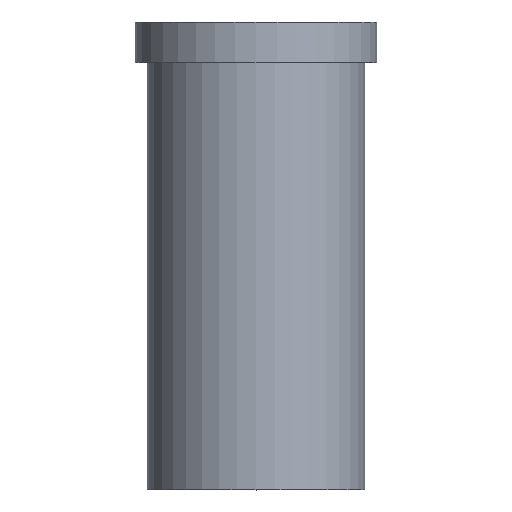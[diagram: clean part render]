
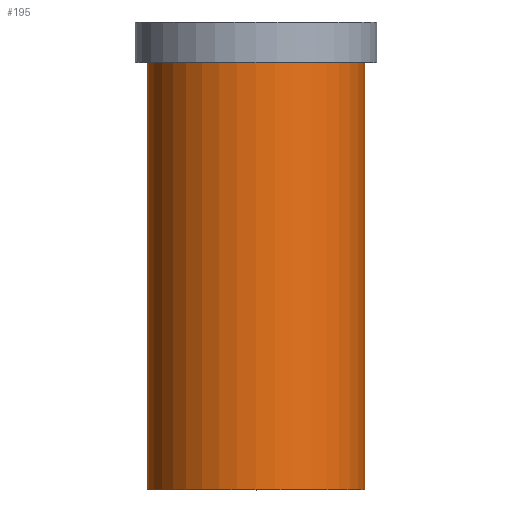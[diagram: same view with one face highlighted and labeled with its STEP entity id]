
A CAD part, top view. The second image highlights one B-rep face of the part: STEP entity #195.
In plain terms, the highlighted cylindrical face has radius 27 mm (diameter 54 mm), a full revolution.
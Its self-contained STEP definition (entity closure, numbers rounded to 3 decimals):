
#32=ORIENTED_EDGE('',*,*,#50,.T.);
#33=ORIENTED_EDGE('',*,*,#49,.F.);
#49=EDGE_CURVE('',#59,#59,#69,.T.);
#50=EDGE_CURVE('',#60,#60,#70,.T.);
#59=VERTEX_POINT('',#280);
#60=VERTEX_POINT('',#283);
#69=CIRCLE('',#213,27.);
#70=CIRCLE('',#215,27.);
#82=EDGE_LOOP('',(#32));
#83=EDGE_LOOP('',(#33));
#102=FACE_BOUND('',#82,.T.);
#103=FACE_BOUND('',#83,.T.);
#117=CYLINDRICAL_SURFACE('',#214,27.);
#195=ADVANCED_FACE('',(#102,#103),#117,.T.);
#213=AXIS2_PLACEMENT_3D('',#279,#241,#242);
#214=AXIS2_PLACEMENT_3D('',#281,#243,#244);
#215=AXIS2_PLACEMENT_3D('',#282,#245,#246);
#241=DIRECTION('',(0.,-1.,0.));
#242=DIRECTION('',(0.,0.,-1.));
#243=DIRECTION('',(0.,-1.,0.));
#244=DIRECTION('',(0.,0.,-1.));
#245=DIRECTION('',(0.,-1.,0.));
#246=DIRECTION('',(0.,0.,-1.));
#279=CARTESIAN_POINT('',(0.,0.,0.));
#280=CARTESIAN_POINT('',(0.,0.,-27.));
#281=CARTESIAN_POINT('',(0.,0.,0.));
#282=CARTESIAN_POINT('',(0.,106.,0.));
#283=CARTESIAN_POINT('',(0.,106.,-27.));
